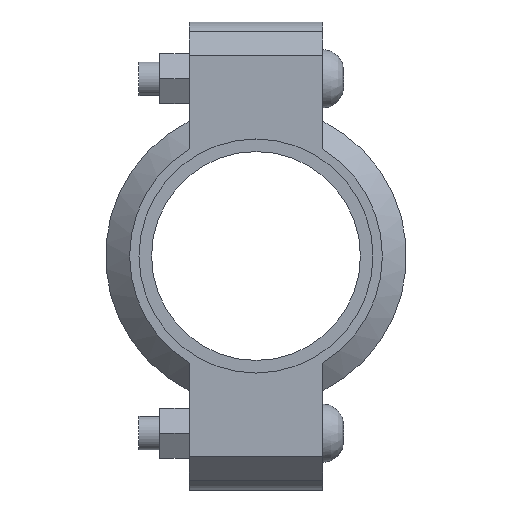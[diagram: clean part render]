
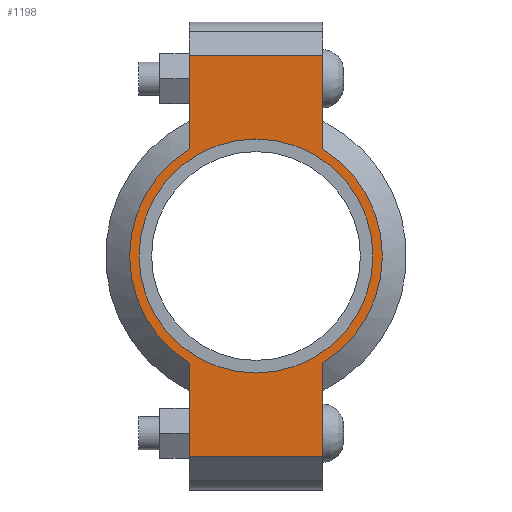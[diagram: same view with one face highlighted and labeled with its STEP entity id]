
A CAD part, left-side view. The second image highlights one B-rep face of the part: STEP entity #1198.
In plain terms, the highlighted planar face has unit normal (-1, 0, 0) as drawn and (0, 0, 1) by its records, which use the part's own axes.
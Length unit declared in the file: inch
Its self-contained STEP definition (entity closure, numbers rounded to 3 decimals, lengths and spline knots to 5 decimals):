
#95=LINE('',#2023,#180);
#103=LINE('',#2059,#188);
#110=LINE('',#2080,#195);
#119=LINE('',#2112,#204);
#120=LINE('',#2116,#205);
#121=LINE('',#2118,#206);
#180=VECTOR('',#1628,0.3937);
#188=VECTOR('',#1644,0.3937);
#195=VECTOR('',#1663,0.3937);
#204=VECTOR('',#1688,0.3937);
#205=VECTOR('',#1693,0.3937);
#206=VECTOR('',#1694,0.3937);
#246=FACE_BOUND('',#376,.T.);
#298=FACE_OUTER_BOUND('',#375,.T.);
#375=EDGE_LOOP('',(#964,#965,#966,#967,#968,#969,#970,#971));
#376=EDGE_LOOP('',(#972));
#449=CIRCLE('',#1386,1.89);
#450=CIRCLE('',#1387,1.89);
#451=CIRCLE('',#1388,1.75);
#530=VERTEX_POINT('',#2020);
#531=VERTEX_POINT('',#2022);
#542=VERTEX_POINT('',#2054);
#543=VERTEX_POINT('',#2058);
#550=VERTEX_POINT('',#2077);
#551=VERTEX_POINT('',#2079);
#561=VERTEX_POINT('',#2115);
#562=VERTEX_POINT('',#2117);
#563=VERTEX_POINT('',#2120);
#664=EDGE_CURVE('',#531,#530,#95,.T.);
#678=EDGE_CURVE('',#543,#542,#103,.T.);
#688=EDGE_CURVE('',#551,#550,#110,.T.);
#703=EDGE_CURVE('',#543,#530,#119,.T.);
#704=EDGE_CURVE('',#542,#551,#449,.T.);
#705=EDGE_CURVE('',#561,#550,#120,.T.);
#706=EDGE_CURVE('',#561,#562,#121,.T.);
#707=EDGE_CURVE('',#562,#531,#450,.T.);
#708=EDGE_CURVE('',#563,#563,#451,.T.);
#964=ORIENTED_EDGE('',*,*,#703,.F.);
#965=ORIENTED_EDGE('',*,*,#678,.T.);
#966=ORIENTED_EDGE('',*,*,#704,.T.);
#967=ORIENTED_EDGE('',*,*,#688,.T.);
#968=ORIENTED_EDGE('',*,*,#705,.F.);
#969=ORIENTED_EDGE('',*,*,#706,.T.);
#970=ORIENTED_EDGE('',*,*,#707,.T.);
#971=ORIENTED_EDGE('',*,*,#664,.T.);
#972=ORIENTED_EDGE('',*,*,#708,.T.);
#1077=PLANE('',#1385);
#1198=ADVANCED_FACE('',(#298,#246),#1077,.T.);
#1385=AXIS2_PLACEMENT_3D('',#2113,#1689,#1690);
#1386=AXIS2_PLACEMENT_3D('',#2114,#1691,#1692);
#1387=AXIS2_PLACEMENT_3D('',#2119,#1695,#1696);
#1388=AXIS2_PLACEMENT_3D('',#2121,#1697,#1698);
#1628=DIRECTION('',(-1.,0.,0.));
#1644=DIRECTION('',(1.,0.,0.));
#1663=DIRECTION('',(1.,0.,0.));
#1688=DIRECTION('',(0.,1.,0.));
#1689=DIRECTION('center_axis',(0.,0.,1.));
#1690=DIRECTION('ref_axis',(1.,0.,0.));
#1691=DIRECTION('center_axis',(0.,0.,1.));
#1692=DIRECTION('ref_axis',(-1.,0.,0.));
#1693=DIRECTION('',(0.,-1.,0.));
#1694=DIRECTION('',(-1.,0.,0.));
#1695=DIRECTION('center_axis',(0.,0.,1.));
#1696=DIRECTION('ref_axis',(-1.,0.,0.));
#1697=DIRECTION('center_axis',(0.,0.,-1.));
#1698=DIRECTION('ref_axis',(-1.,0.,0.));
#2020=CARTESIAN_POINT('',(-3.,1.,0.94));
#2022=CARTESIAN_POINT('',(-1.60378,1.,0.94));
#2023=CARTESIAN_POINT('',(-3.5,1.,0.94));
#2054=CARTESIAN_POINT('',(-1.60378,-1.,0.94));
#2058=CARTESIAN_POINT('',(-3.,-1.,0.94));
#2059=CARTESIAN_POINT('',(3.5,-1.,0.94));
#2077=CARTESIAN_POINT('',(3.,-1.,0.94));
#2079=CARTESIAN_POINT('',(1.60378,-1.,0.94));
#2080=CARTESIAN_POINT('',(3.5,-1.,0.94));
#2112=CARTESIAN_POINT('',(-3.,0.5,0.94));
#2113=CARTESIAN_POINT('Origin',(0.,0.,
0.94));
#2114=CARTESIAN_POINT('Origin',(0.,0.,0.94));
#2115=CARTESIAN_POINT('',(3.,1.,0.94));
#2116=CARTESIAN_POINT('',(3.,-0.5,0.94));
#2117=CARTESIAN_POINT('',(1.60378,1.,0.94));
#2118=CARTESIAN_POINT('',(-3.5,1.,0.94));
#2119=CARTESIAN_POINT('Origin',(0.,0.,0.94));
#2120=CARTESIAN_POINT('',(1.75,0.,0.94));
#2121=CARTESIAN_POINT('Origin',(0.,0.,0.94));
